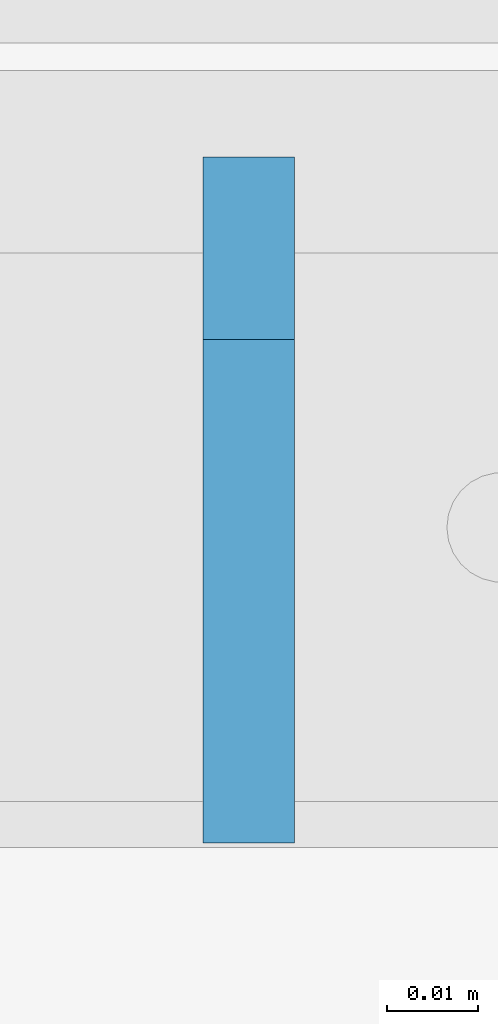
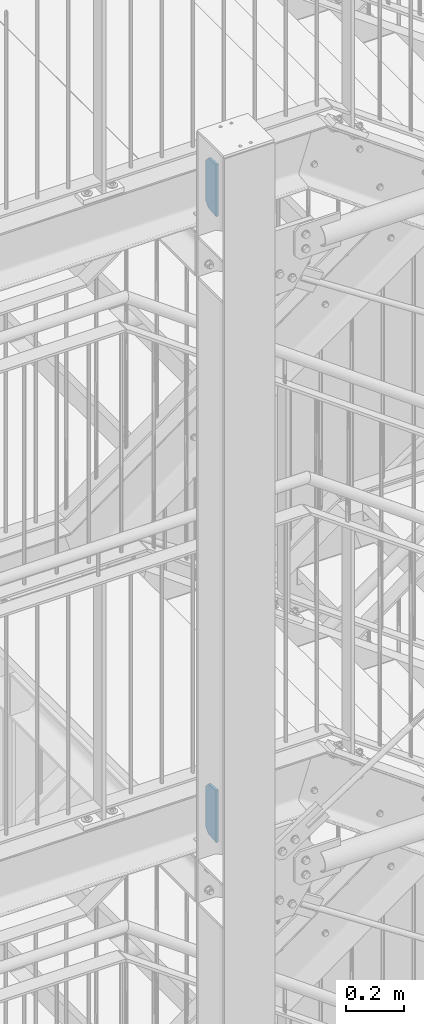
# One storey, part 152 of 817: 2 plates, 4 openings.
"""IFC2X3 building model written with IfcOpenShell, lengths in millimetres."""

from ifc_helpers import new_model, entity, si_unit, converted_unit, frame, origin, origin_with_axes, place, context, project, spatial, polyline, outline, extrude, material, layer, layer_set, element, save


model = new_model("IFC2X3")

# Units and contexts
model_context = context("Model", 3, precision=1e-09, world=origin_with_axes())
ifc_project = project(units=[si_unit("LENGTHUNIT", "METRE", prefix="MILLI"), si_unit("AREAUNIT", "SQUARE_METRE"), si_unit("VOLUMEUNIT", "CUBIC_METRE"), converted_unit("PLANEANGLEUNIT", "DEGREE", entity("IfcPlaneAngleMeasure", 0.01745329), si_unit("PLANEANGLEUNIT", "RADIAN"), dimensions=[0, 0, 0, 0, 0, 0, 0])], contexts=[model_context])

# Site, building, storey
site_placement = place(None, origin_with_axes())
site = spatial("IfcSite", under=ifc_project, at=site_placement, Name="Cnopf'sche Kinderklinik", CompositionType="ELEMENT")
building_placement = place(site_placement, origin_with_axes())
building = spatial("IfcBuilding", under=site, at=building_placement, Name="Struktur 1", CompositionType="ELEMENT")
storey_placement = place(building_placement, origin_with_axes())
storey = spatial("IfcBuildingStorey", under=building, at=storey_placement, Name="Default Storey", CompositionType="ELEMENT", Elevation=0.0)

# Plate, openings
ifc_material = material(Name="S235JR")
ifc_layer = layer(ifc_material, 10.0)
ifc_layer_set = layer_set([ifc_layer], Name="S235JR")
plate_1_placement = place(None, frame((4851.713402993, 4567.236971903, 15196.855161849), z_axis=(1.0, 0.0, 0.0), x_axis=(0.0, -0.996815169, 0.079746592)))
plate_1 = element("IfcPlate", 1, at=plate_1_placement, inside=storey, material=ifc_layer_set, Name="Stiffener#1", ObjectType="Stiffener#1", context=model_context, shape_type="SweptSolid", body=[
    extrude(outline(polyline([(0.0, 0.0), (75.239625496, 0.0), (57.877952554, 217.017159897), (-16.404697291, 205.05517107), (0.0, 0.0)])), origin_with_axes(), (0.0, 0.0, 1.0), 10.0),
])
opening_1_placement = place(plate_1_placement, frame((0.0, 0.0, -0.01), z_axis=(0.0, 0.0, 1.0), x_axis=(1.0, 0.0, 0.0)))
element("IfcOpeningElement", 2, at=opening_1_placement, cuts=plate_1, ObjectType="Opening", context=model_context, shape_type="SweptSolid", body=[
    extrude(outline(polyline([(-16.404697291, 205.05517107), (-14.809765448, 185.118867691), (3.34092195, 208.23487558), (-16.404697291, 205.05517107)])), origin(), (0.0, 0.0, 1.0), 10.02),
])
opening_2_placement = place(plate_1_placement, frame((0.0, 0.0, -0.01), z_axis=(0.0, 0.0, 1.0), x_axis=(1.0, 0.0, 0.0)))
element("IfcOpeningElement", 3, at=opening_2_placement, cuts=plate_1, ObjectType="Opening", context=model_context, shape_type="SweptSolid", body=[
    extrude(outline(polyline([(0.0, 0.0), (20.0, 0.0), (-1.594931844, 19.936303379), (0.0, 0.0)])), origin(), (0.0, 0.0, 1.0), 10.02),
])

plate_2_placement = place(None, frame((4851.713402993, 4567.236971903, 17816.855161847), z_axis=(1.0, 0.0, 0.0), x_axis=(0.0, -0.996815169, 0.079746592)))
plate_2 = element("IfcPlate", 4, at=plate_2_placement, inside=storey, material=ifc_layer_set, Name="Stiffener#1", ObjectType="Stiffener#1", context=model_context, shape_type="SweptSolid", body=[
    extrude(outline(polyline([(0.0, 0.0), (75.239625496, 0.0), (57.877952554, 217.017159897), (-16.404697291, 205.05517107), (0.0, 0.0)])), origin_with_axes(), (0.0, 0.0, 1.0), 10.0),
])
opening_3_placement = place(plate_2_placement, frame((0.0, 0.0, -0.01), z_axis=(0.0, 0.0, 1.0), x_axis=(1.0, 0.0, 0.0)))
element("IfcOpeningElement", 5, at=opening_3_placement, cuts=plate_2, ObjectType="Opening", context=model_context, shape_type="SweptSolid", body=[
    extrude(outline(polyline([(-16.404697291, 205.05517107), (-14.809765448, 185.118867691), (3.34092195, 208.23487558), (-16.404697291, 205.05517107)])), origin(), (0.0, 0.0, 1.0), 10.02),
])
opening_4_placement = place(plate_2_placement, frame((0.0, 0.0, -0.01), z_axis=(0.0, 0.0, 1.0), x_axis=(1.0, 0.0, 0.0)))
element("IfcOpeningElement", 6, at=opening_4_placement, cuts=plate_2, ObjectType="Opening", context=model_context, shape_type="SweptSolid", body=[
    extrude(outline(polyline([(0.0, 0.0), (20.0, 0.0), (-1.594931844, 19.936303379), (0.0, 0.0)])), origin(), (0.0, 0.0, 1.0), 10.02),
])

save(model, "model.ifc")
